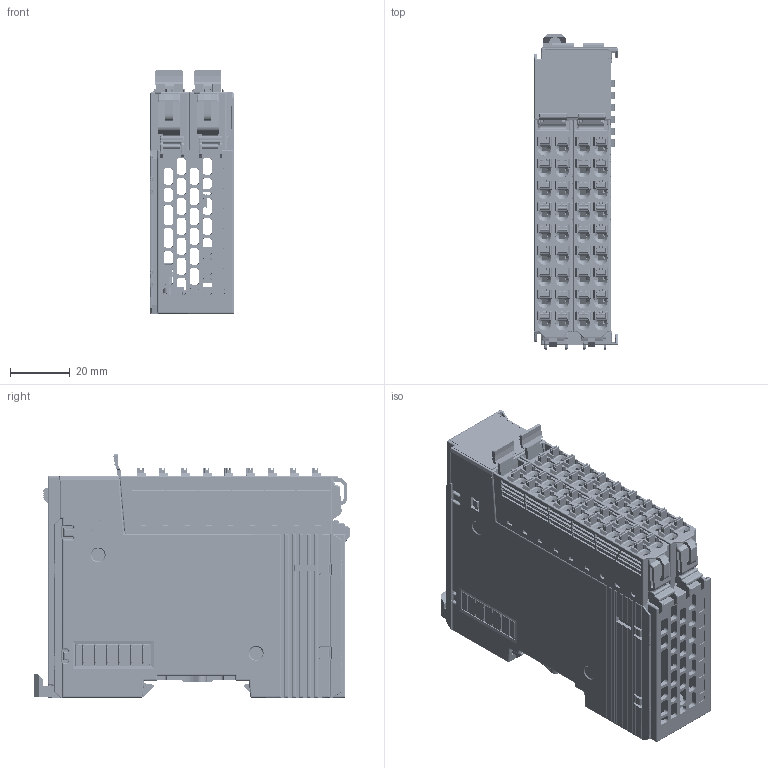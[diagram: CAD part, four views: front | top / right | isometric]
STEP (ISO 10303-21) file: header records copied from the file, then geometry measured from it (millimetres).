
FILE_DESCRIPTION( ('This file contains a STEP AP42 implementation' ,'as created by ZW3D STEP Interface translator.') ,'2;1' );
FILE_NAME( 'HCQX-32-D4-勤俋.stp' ,'23 921.164849', (''), ('ZWCAD Software Co.'), 'Version 1.0', 'ZW3D to STEP translator', '' );
FILE_SCHEMA(('AUTOMOTIVE_DESIGN { 1 0 10303 214 1 1 1 1 }'));
Length unit declared in the file: millimetre
Products named in the file (2): 0; HCQX-32-D4-勤俋001
Bounding box: 28.2 x 106 x 81.92 mm (x, y, z)
Volume: 49248.9 mm3; surface area: 144150.5 mm2
Topology: 175 solids, 182 shells, 27270 faces, 74919 edges, 48015 vertices
Faces by surface type: plane 18553, cylinder 5623, bspline 1525, sphere 1044, cone 525
Full cylindrical faces by diameter (mm): 0.8 x4, 0.9 x1, 1.52 x1, 1.591 x1, 1.63 x1, 1.7 x1
Entity records: 927063 total; most frequent: CARTESIAN_POINT 217316, ORIENTED_EDGE 149572, DIRECTION 130813, EDGE_CURVE 74818, VECTOR 57795, LINE 57795, VERTEX_POINT 48033, AXIS2_PLACEMENT_3D 36509
